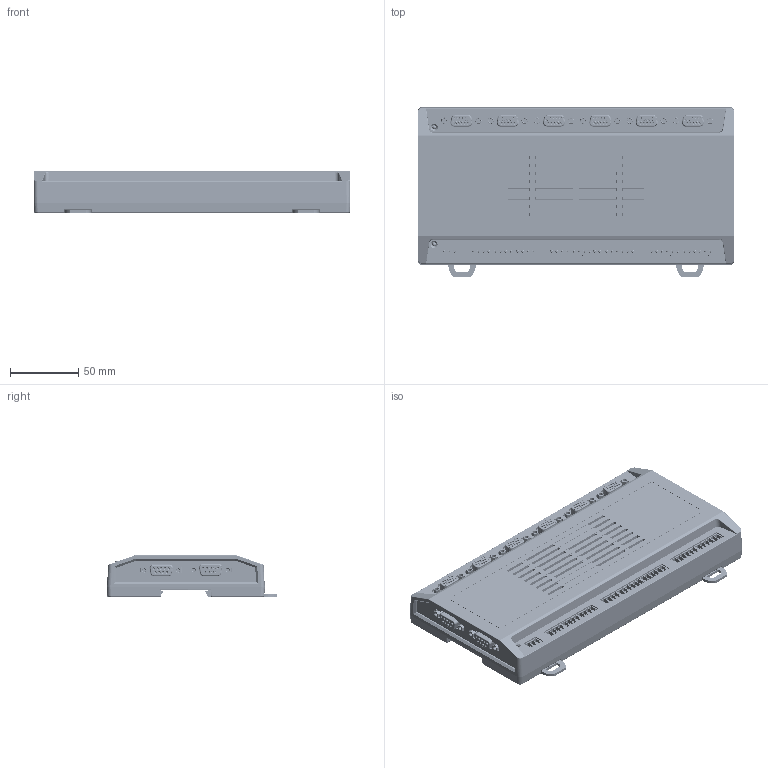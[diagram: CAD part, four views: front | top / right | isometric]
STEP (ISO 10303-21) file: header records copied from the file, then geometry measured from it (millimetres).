
FILE_DESCRIPTION (( 'STEP AP203' ), '1' );
FILE_NAME ('MC7764.STEP', '2023-03-15T02:30:52', ( 'Microsoft' ), ( 'Microsoft' ), 'SwSTEP 2.0', 'SolidWorks 2020', '' );
FILE_SCHEMA (( 'CONFIG_CONTROL_DESIGN' ));
Length unit declared in the file: millimetre
Products named in the file (1): MC7764
Bounding box: 232.5 x 125 x 30.7 mm (x, y, z)
Surface area: 199733.5 mm2 (no closed solid volume)
Topology: 0 solids, 90 shells, 7481 faces, 18429 edges, 11497 vertices
Faces by surface type: plane 4829, cylinder 1771, bspline 819, cone 58, sphere 4
Entity records: 234037 total; most frequent: CARTESIAN_POINT 59957, ORIENTED_EDGE 36647, DIRECTION 34733, EDGE_CURVE 18347, LINE 13697, VECTOR 13697, VERTEX_POINT 11491, AXIS2_PLACEMENT_3D 10518
